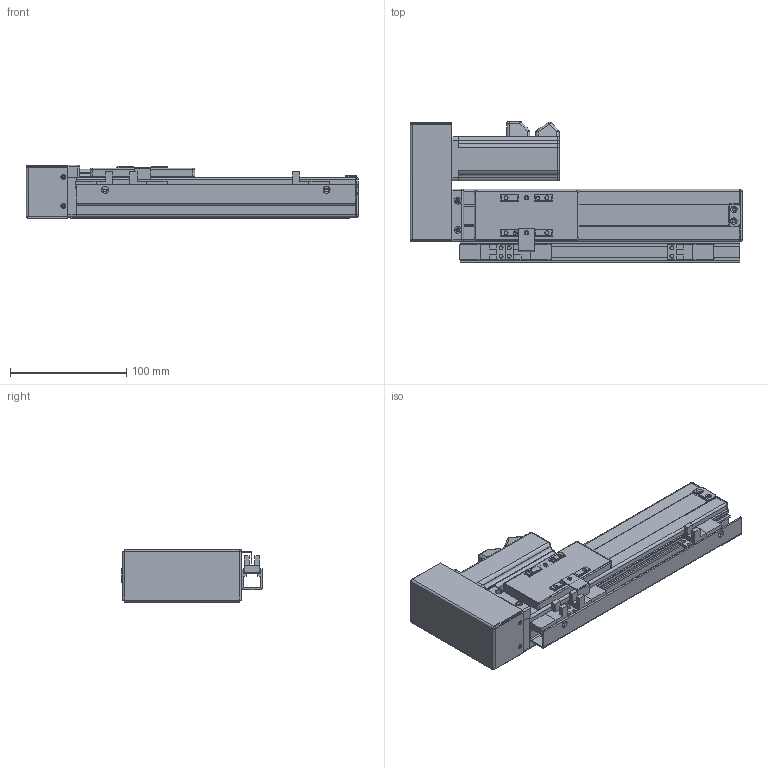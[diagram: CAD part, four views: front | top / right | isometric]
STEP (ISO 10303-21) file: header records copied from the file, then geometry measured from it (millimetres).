
FILE_DESCRIPTION (( 'STEP AP203' ), '1' );
FILE_NAME ('VT4-L12-C-S120-BR-P10-D4.STEP', '2015-10-26T03:42:29', ( '' ), ( '' ), 'SwSTEP 2.0', 'SolidWorks 2013', '' );
FILE_SCHEMA (( 'CONFIG_CONTROL_DESIGN' ));
Length unit declared in the file: millimetre
Products named in the file (17): T4-BLRM 粣創釱; T4-BLRM ヶ傷揤輸_A6061; 詩湍; T4-覜茼え; T4-BLR 萇儂欶; VT4-L12-C-S120-BR-P10-D4; MGW12C-絳寢_俴最120; SFKR0802佪裝TBI_俴最120; T4-BLR 100w萇儂假蚾啣_A6061; T6-癹弇羲壽羞_俴最120; EE-SX674-WR; T4-揤輸; 侂狟100W MSMD012G1U; T4-綴傷裔; T4-耜啣羲耀芞2_俴最120; T4-賑雄殤; T4-裔啣
Assembly tree (19 placements, depth 2):
  VT4-L12-C-S120-BR-P10-D4
    T4-綴傷裔
    T4-耜啣羲耀芞2_俴最120  x2
    T4-賑雄殤
    T4-裔啣
    T4-揤輸
    T4-覜茼え
    T6-癹弇羲壽羞_俴最120
    EE-SX674-WR  x3
    SFKR0802佪裝TBI_俴最120
    MGW12C-絳寢_俴最120
    侂狟100W MSMD012G1U
    T4-BLR 100w萇儂假蚾啣_A6061
    T4-BLRM 粣創釱
    T4-BLRM ヶ傷揤輸_A6061
    詩湍
    T4-BLR 萇儂欶
Bounding box: 285 x 121 x 46.25 mm (x, y, z)
Volume: 358515.4 mm3; surface area: 237720.7 mm2
Topology: 22 solids, 22 shells, 1212 faces, 3242 edges, 2049 vertices
Faces by surface type: plane 561, cylinder 536, cone 57, torus 30, sphere 20, bspline 8
Entity records: 34125 total; most frequent: CARTESIAN_POINT 6511, DIRECTION 5522, ORIENTED_EDGE 5260, EDGE_CURVE 2630, AXIS2_PLACEMENT_3D 1972, VERTEX_POINT 1683, VECTOR 1578, LINE 1578
